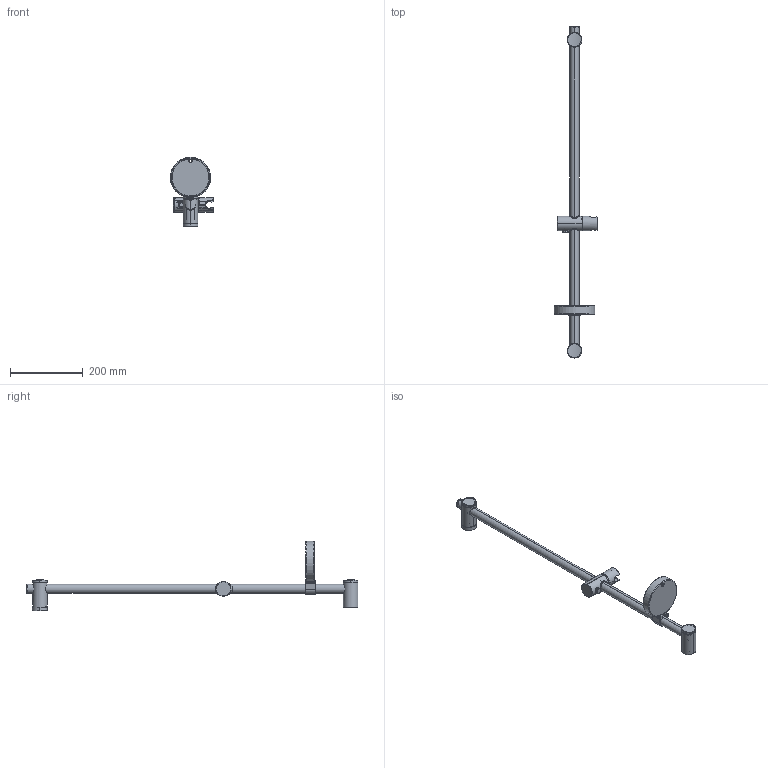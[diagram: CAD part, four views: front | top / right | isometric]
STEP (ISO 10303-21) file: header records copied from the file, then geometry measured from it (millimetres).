
FILE_DESCRIPTION((''),'2;1');
FILE_NAME('76601_GEN_SUB01_ASM','2026-10-14T14:04:04',('simi1'),(''),'CREO PARAMETRIC BY PTC INC, 2022244','CREO PARAMETRIC BY PTC INC, 2022244','');
FILE_SCHEMA(('CONFIG_CONTROL_DESIGN'));
Length unit declared in the file: millimetre
Products named in the file (25): 76600_POS14; 76600_POS15; 76600_IGES_SUB02_ASM; 76601_POS1; 76600_POS7; 76601_IGES_SUB03_ASM; 76600_POS2; 76600_POS16; 76600_POS8; 76600_IGES_SUB01_ASM; 76600_POS11; 76600_POS9; 76600_POS12; 76600_POS10; 76600_POS5; 76600_POS4; 76600_POS3; 76600_POS13; 76600_POS6; 76600_IGES_SUB04_ASM; 2390400; 2390300; 23906_SUB02_ASM; 76601_IGES_SOLEX_ASM; 76601_GEN_SUB01_ASM
Assembly tree (24 placements, depth 4):
  76601_GEN_SUB01_ASM
    76601_IGES_SOLEX_ASM
      76600_IGES_SUB02_ASM
        76600_POS14
        76600_POS15
      76601_IGES_SUB03_ASM
        76601_POS1
        76600_POS7
      76600_IGES_SUB01_ASM
        76600_POS2
        76600_POS16
        76600_POS8
      76600_IGES_SUB04_ASM
        76600_POS11
        76600_POS9
        76600_POS12
        76600_POS10
        76600_POS5
        76600_POS4
        76600_POS3
        76600_POS13
        76600_POS6
      23906_SUB02_ASM
        2390400
        2390300
Bounding box: 118.75 x 912.9 x 190.85 mm (x, y, z)
Volume: 250771.2 mm3; surface area: 304751.6 mm2
Topology: 18 solids, 18 shells, 739 faces, 1976 edges, 1285 vertices
Faces by surface type: plane 292, cylinder 284, bspline 62, torus 52, sphere 24, cone 23, extrusion 2
Entity records: 37702 total; most frequent: CARTESIAN_POINT 19227, ORIENTED_EDGE 3936, DIRECTION 3596, EDGE_CURVE 1968, AXIS2_PLACEMENT_3D 1381, VERTEX_POINT 1285, VECTOR 834, LINE 832
